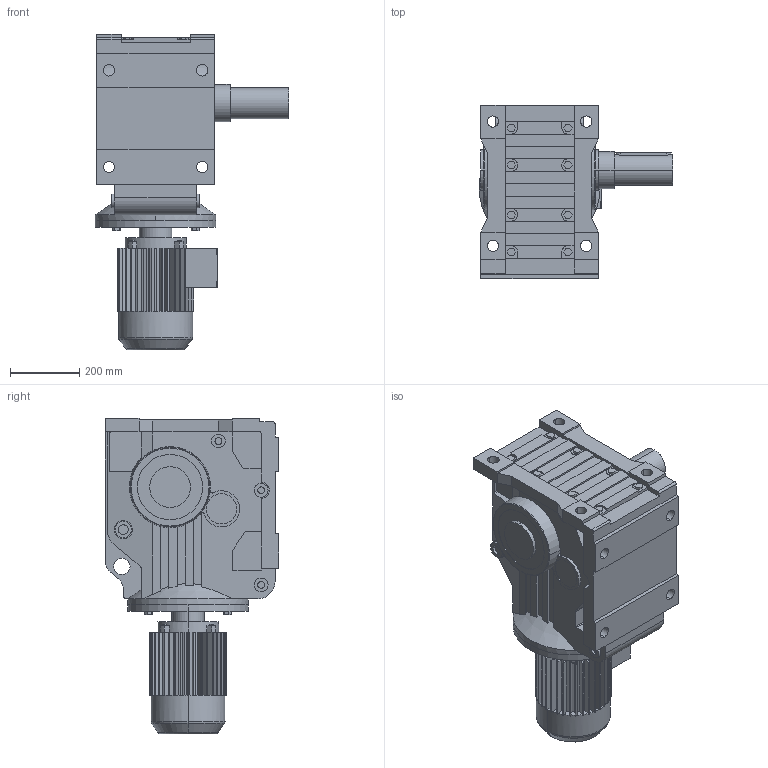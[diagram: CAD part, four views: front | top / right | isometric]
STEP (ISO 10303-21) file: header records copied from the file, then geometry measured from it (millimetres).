
FILE_DESCRIPTION(('Open CASCADE Model'),'2;1');
FILE_NAME('Open CASCADE Shape Model','2021-05-28T13:18:25',('Author'),( 'Open CASCADE'),'Open CASCADE STEP processor 6.3','Open CASCADE 6.3' ,'Unknown');
FILE_SCHEMA(('AUTOMOTIVE_DESIGN_CC2 { 1 2 10303 214 -1 1 5 4 }'));
Length unit declared in the file: millimetre
Products named in the file (4): 1_K107DV132S-A; K37‵157_107.step; 萇儂_350-DV132S-374-454-221-179.step; す瑩妗陑粣K_107.step
Assembly tree (3 placements, depth 2):
  1_K107DV132S-A
    K37‵157_107.step
    萇儂_350-DV132S-374-454-221-179.step
    す瑩妗陑粣K_107.step
Bounding box: 561 x 503 x 915 mm (x, y, z)
Volume: 77296879.4 mm3; surface area: 2483342.5 mm2
Topology: 3 solids, 3 shells, 842 faces, 2218 edges, 1439 vertices
Faces by surface type: plane 587, cylinder 231, cone 16, torus 8
Entity records: 57957 total; most frequent: CARTESIAN_POINT 15788, DIRECTION 7274, ORIENTED_EDGE 4432, PCURVE 4432, DEFINITIONAL_REPRESENTATION 4432, LINE 3960, VECTOR 3960, EDGE_CURVE 2216
